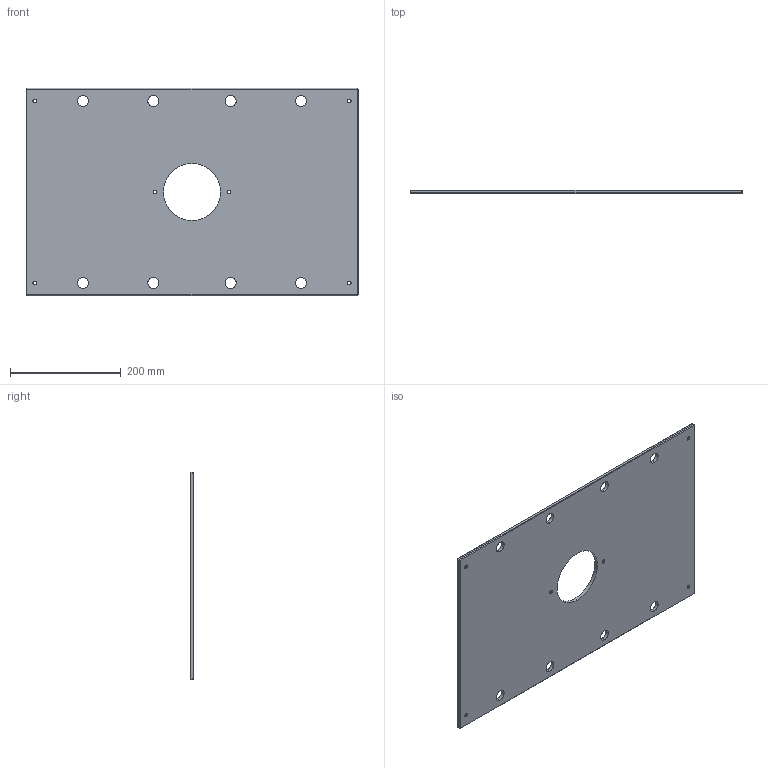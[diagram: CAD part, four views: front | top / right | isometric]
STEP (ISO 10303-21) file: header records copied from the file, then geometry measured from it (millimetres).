
FILE_DESCRIPTION (( 'STEP AP214' ), '1' );
FILE_NAME ('ME-0619-CH-1524.STEP', '2020-02-11T15:49:23', ( '' ), ( '' ), 'SwSTEP 2.0', 'SolidWorks 2018', '' );
FILE_SCHEMA (( 'AUTOMOTIVE_DESIGN' ));
Length unit declared in the file: inch
Products named in the file (1): ME-0619-CH-1524
Bounding box: 600.08 x 6.35 x 374.65 mm (x, y, z)
Volume: 1352907.6 mm3; surface area: 442880.3 mm2
Topology: 1 solids, 1 shells, 68 faces, 162 edges, 96 vertices
Faces by surface type: cylinder 30, plane 26, cone 12
Entity records: 2050 total; most frequent: DIRECTION 372, CARTESIAN_POINT 327, ORIENTED_EDGE 324, EDGE_CURVE 162, AXIS2_PLACEMENT_3D 141, EDGE_LOOP 98, VERTEX_POINT 96, VECTOR 90
